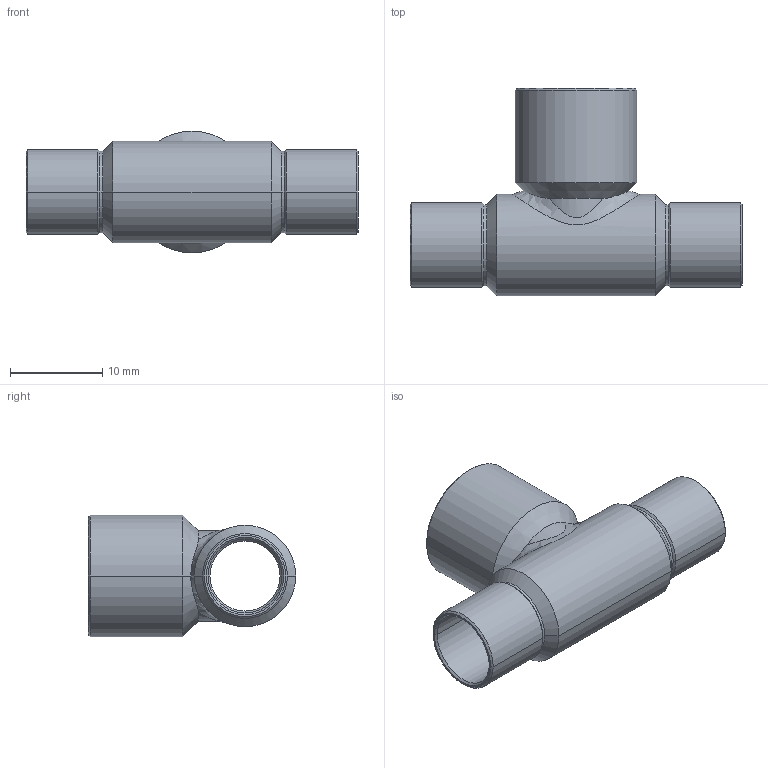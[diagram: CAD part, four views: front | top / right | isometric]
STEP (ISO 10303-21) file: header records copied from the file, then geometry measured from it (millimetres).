
FILE_DESCRIPTION((''),'2;1');
FILE_NAME('P:\Bouwmaten\z-maattekeningen 3D\5000\5130\51308128.stp','2005-10-26T11:54:03',('Kris'),(''),'Autodesk Inventor 8','Autodesk Inventor 8','');
FILE_SCHEMA(('AUTOMOTIVE_DESIGN { 1 0 10303 214 1 1 1 1 }'));
Length unit declared in the file: millimetre
Products named in the file (1): 51308128
Bounding box: 36 x 22.5 x 13.2 mm (x, y, z)
Volume: 910.6 mm3; surface area: 3095.3 mm2
Topology: 1 solids, 1 shells, 65 faces, 144 edges, 80 vertices
Faces by surface type: cone 28, cylinder 20, bspline 14, plane 3
Entity records: 2461 total; most frequent: CARTESIAN_POINT 1054, DIRECTION 292, ORIENTED_EDGE 288, EDGE_CURVE 144, AXIS2_PLACEMENT_3D 117, VERTEX_POINT 80, EDGE_LOOP 68, CIRCLE 65
